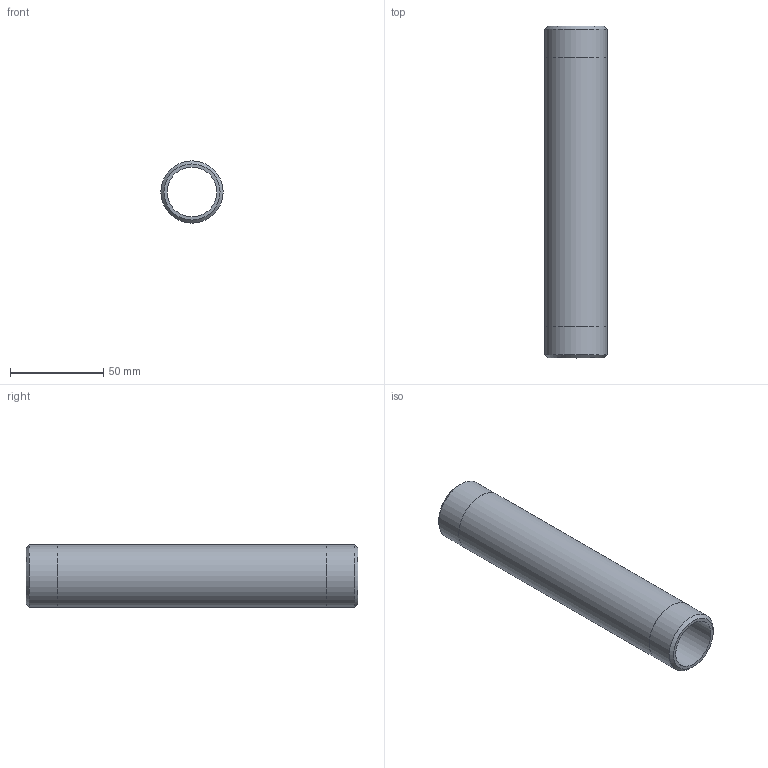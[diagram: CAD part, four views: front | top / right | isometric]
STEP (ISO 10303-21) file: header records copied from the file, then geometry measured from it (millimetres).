
FILE_DESCRIPTION(/* description */ (''),/* implementation_level */ '2;1');
FILE_NAME(/* name */ 'C:/Users/drich/Desktop/SSPN1-7 v1.step',/* time_stamp */ '2020-01-03T16:30:19-06:00',/* author */ (''),/* organization */ (''),/* preprocessor_version */ 'ST-DEVELOPER v18',/* originating_system */ 'Autodesk Translation Framework v8.12.0.6',/* authorisation */ '');
FILE_SCHEMA (('AUTOMOTIVE_DESIGN { 1 0 10303 214 3 1 1 }'));
Length unit declared in the file: inch
Products named in the file (1): SSPN1-7
Bounding box: 33.4 x 177.8 x 33.4 mm (x, y, z)
Volume: 56286.8 mm3; surface area: 33962.1 mm2
Topology: 1 solids, 1 shells, 10 faces, 24 edges, 18 vertices
Faces by surface type: cylinder 4, plane 4, cone 2
Full cylindrical faces by diameter (mm): 26.645 x1, 33.35 x2, 33.401 x1
Entity records: 353 total; most frequent: DIRECTION 64, CARTESIAN_POINT 53, ORIENTED_EDGE 48, AXIS2_PLACEMENT_3D 29, EDGE_CURVE 24, CIRCLE 18, VERTEX_POINT 18, EDGE_LOOP 14
